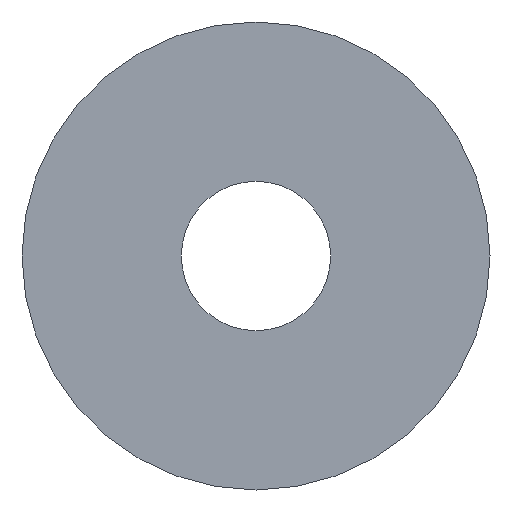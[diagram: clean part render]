
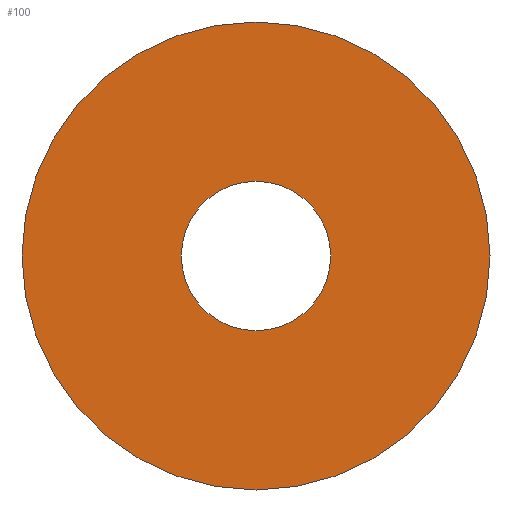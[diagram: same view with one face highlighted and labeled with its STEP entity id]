
A CAD part, front view. The second image highlights one B-rep face of the part: STEP entity #100.
In plain terms, the highlighted planar face has unit normal (0, -1, 0).
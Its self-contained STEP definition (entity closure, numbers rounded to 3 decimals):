
#2 = DIRECTION ( 'NONE',  ( 0., 1., 0. ) ) ;
#3 = EDGE_CURVE ( 'NONE', #73, #73, #95, .T. ) ;
#4 = FACE_BOUND ( 'NONE', #172, .T. ) ;
#38 = EDGE_CURVE ( 'NONE', #166, #166, #64, .T. ) ;
#41 = ORIENTED_EDGE ( 'NONE', *, *, #38, .F. ) ;
#44 = CARTESIAN_POINT ( 'NONE',  ( 0., -9.5, 23.5 ) ) ;
#55 = CARTESIAN_POINT ( 'NONE',  ( 0., -9.5, 0. ) ) ;
#57 = DIRECTION ( 'NONE',  ( 0., 1., 0. ) ) ;
#59 = PLANE ( 'NONE',  #96 ) ;
#63 = CARTESIAN_POINT ( 'NONE',  ( 0., -9.5, 7.5 ) ) ;
#64 = CIRCLE ( 'NONE', #134, 23.5 ) ;
#67 = CARTESIAN_POINT ( 'NONE',  ( 0., -9.5, 0. ) ) ;
#69 = ORIENTED_EDGE ( 'NONE', *, *, #3, .T. ) ;
#73 = VERTEX_POINT ( 'NONE', #63 ) ;
#75 = CARTESIAN_POINT ( 'NONE',  ( 7.5, -9.5, 0. ) ) ;
#79 = AXIS2_PLACEMENT_3D ( 'NONE', #55, #2, #108 ) ;
#95 = CIRCLE ( 'NONE', #79, 7.5 ) ;
#96 = AXIS2_PLACEMENT_3D ( 'NONE', #75, #57, #124 ) ;
#100 = ADVANCED_FACE ( 'NONE', ( #121, #4 ), #59, .F. ) ;
#108 = DIRECTION ( 'NONE',  ( 0., 0., 1. ) ) ;
#114 = DIRECTION ( 'NONE',  ( 0., 0., 1. ) ) ;
#121 = FACE_OUTER_BOUND ( 'NONE', #163, .T. ) ;
#124 = DIRECTION ( 'NONE',  ( 0., 0., 1. ) ) ;
#134 = AXIS2_PLACEMENT_3D ( 'NONE', #67, #167, #114 ) ;
#163 = EDGE_LOOP ( 'NONE', ( #41 ) ) ;
#166 = VERTEX_POINT ( 'NONE', #44 ) ;
#167 = DIRECTION ( 'NONE',  ( 0., 1., 0. ) ) ;
#172 = EDGE_LOOP ( 'NONE', ( #69 ) ) ;
